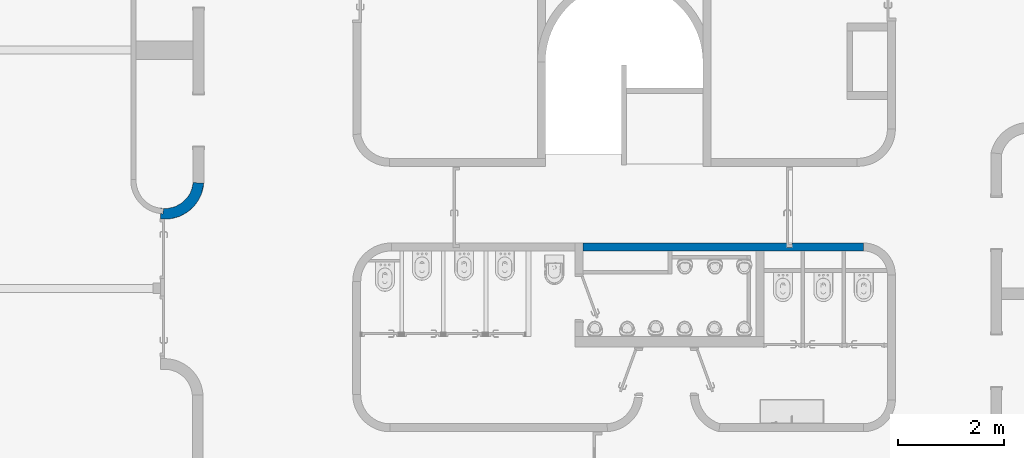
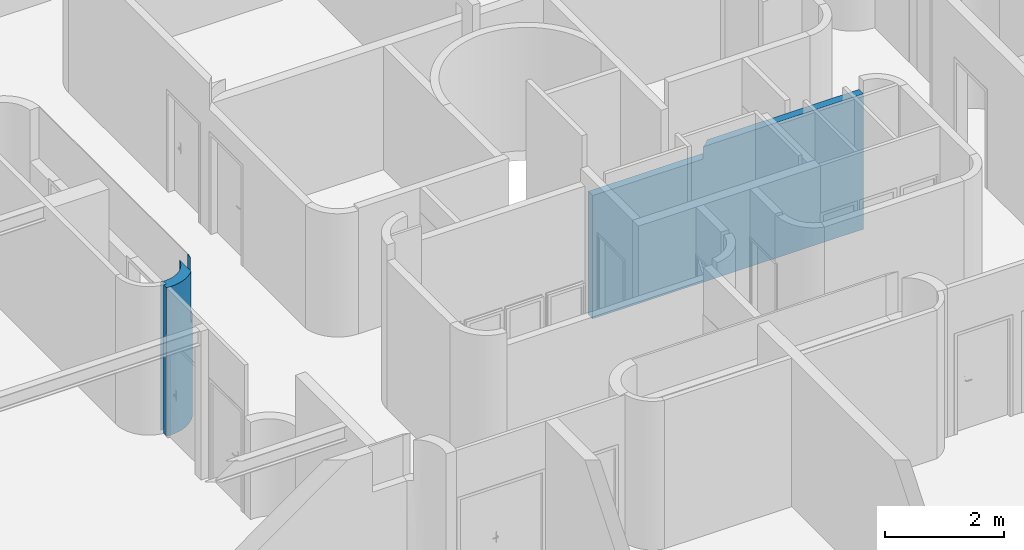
# One storey, part 7 of 7: 2 walls.
"""IFC2X3 building model written with IfcOpenShell, lengths in metres."""

from ifc_helpers import new_model, entity, si_unit, converted_unit, derived_unit, direction, frame, origin, place, context, subcontext, project, spatial, faceted_brep, material, layer, layer_set, type_object, element, save


model = new_model("IFC2X3")

# Units and contexts
model_context = context("Model", 3, precision=1e-05, world=origin(), true_north=direction((6.12303176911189e-17, 1.0)))
body_context = subcontext(model_context, "Body", "Model", "MODEL_VIEW")
ifc_project = project(units=[si_unit("LENGTHUNIT", "METRE"), si_unit("AREAUNIT", "SQUARE_METRE"), si_unit("VOLUMEUNIT", "CUBIC_METRE"), converted_unit("PLANEANGLEUNIT", "DEGREE", entity("IfcRatioMeasure", 0.0174532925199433), si_unit("PLANEANGLEUNIT", "RADIAN"), dimensions=[0, 0, 0, 0, 0, 0, 0]), si_unit("MASSUNIT", "GRAM", prefix="KILO"), derived_unit("MASSDENSITYUNIT", [(si_unit("MASSUNIT", "GRAM", prefix="KILO"), 1), (si_unit("LENGTHUNIT", "METRE"), -3)]), derived_unit("MOMENTOFINERTIAUNIT", [(si_unit("LENGTHUNIT", "METRE"), 4)]), si_unit("TIMEUNIT", "SECOND"), si_unit("FREQUENCYUNIT", "HERTZ"), si_unit("THERMODYNAMICTEMPERATUREUNIT", "DEGREE_CELSIUS"), derived_unit("THERMALTRANSMITTANCEUNIT", [(si_unit("MASSUNIT", "GRAM", prefix="KILO"), 1), (si_unit("THERMODYNAMICTEMPERATUREUNIT", "KELVIN"), -1), (si_unit("TIMEUNIT", "SECOND"), -3)]), derived_unit("VOLUMETRICFLOWRATEUNIT", [(si_unit("LENGTHUNIT", "METRE"), 3), (si_unit("TIMEUNIT", "SECOND"), -1)]), si_unit("ELECTRICCURRENTUNIT", "AMPERE"), si_unit("ELECTRICVOLTAGEUNIT", "VOLT"), si_unit("POWERUNIT", "WATT"), si_unit("FORCEUNIT", "NEWTON", prefix="KILO"), si_unit("ILLUMINANCEUNIT", "LUX"), si_unit("LUMINOUSFLUXUNIT", "LUMEN"), si_unit("LUMINOUSINTENSITYUNIT", "CANDELA"), derived_unit("USERDEFINED", [(si_unit("MASSUNIT", "GRAM", prefix="KILO"), -1), (si_unit("LENGTHUNIT", "METRE"), -2), (si_unit("TIMEUNIT", "SECOND"), 3), (si_unit("LUMINOUSFLUXUNIT", "LUMEN"), 1)]), derived_unit("LINEARVELOCITYUNIT", [(si_unit("LENGTHUNIT", "METRE"), 1), (si_unit("TIMEUNIT", "SECOND"), -1)]), si_unit("PRESSUREUNIT", "PASCAL"), derived_unit("USERDEFINED", [(si_unit("LENGTHUNIT", "METRE"), -2), (si_unit("MASSUNIT", "GRAM", prefix="KILO"), 1), (si_unit("TIMEUNIT", "SECOND"), -2)]), derived_unit("LINEARFORCEUNIT", [(si_unit("MASSUNIT", "GRAM", prefix="KILO"), 1), (si_unit("LENGTHUNIT", "METRE"), 1), (si_unit("TIMEUNIT", "SECOND"), -2), (si_unit("LENGTHUNIT", "METRE"), -1)]), derived_unit("PLANARFORCEUNIT", [(si_unit("MASSUNIT", "GRAM", prefix="KILO"), 1), (si_unit("LENGTHUNIT", "METRE"), 1), (si_unit("TIMEUNIT", "SECOND"), -2), (si_unit("LENGTHUNIT", "METRE"), -2)])], contexts=[model_context])

# Site, building, storey
site_placement = place(None, origin())
site = spatial("IfcSite", under=ifc_project, at=site_placement, Name="Default", CompositionType="ELEMENT")
building_placement = place(site_placement, origin())
building = spatial("IfcBuilding", under=site, at=building_placement, CompositionType="ELEMENT")
storey_placement = place(building_placement, frame((0.0, 0.0, 7.36730827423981)))
storey = spatial("IfcBuildingStorey", under=building, at=storey_placement, Name="Niveau 2", CompositionType="ELEMENT", Elevation=7.36730827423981)

# Walls
ifc_material_1 = material(Name="Maçonnerie - Voile BA")
ifc_layer_1 = layer(ifc_material_1, 0.2)
ifc_layer_set_1 = layer_set([ifc_layer_1], Name="Mur de base:Ext. Voile BA 200")
wall_type_1 = type_object("IfcWallType", Name="Mur de base:Ext. Voile BA 200", PredefinedType="STANDARD", material=ifc_layer_set_1)
wall_1_placement = place(storey_placement, frame((-19.572419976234, -8.21540196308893, 0.0)))
element("IfcWall", 1, at=wall_1_placement, inside=storey, type_object=wall_type_1, Name="Mur de base:Ext. Voile BA 200", ObjectType="Mur de base:Ext. Voile BA 200", context=body_context, shape_type="Brep", body=[
    faceted_brep([(0.0159046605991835, -0.103136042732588, 0.0), (0.0159046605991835, -0.103136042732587, 1.88681319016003), (0.0159046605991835, -0.103136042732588, 3.05600000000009), (0.0159046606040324, -0.0041967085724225, 3.05600000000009), (0.0159046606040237, -0.0041967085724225, 2.8368972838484), (0.0159046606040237, -0.00419670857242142, 2.6177945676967), (0.0159046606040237, -0.00419670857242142, 2.398691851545), (0.0159046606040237, -0.00419670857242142, 2.1795891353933), (0.0159046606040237, -0.00419670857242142, 1.9604864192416), (0.0159046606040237, -0.0041967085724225, 1.7413837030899), (0.0159046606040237, -0.0041967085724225, 1.5222809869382), (0.0159046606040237, -0.0041967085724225, 1.3031782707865), (0.0159046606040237, -0.0041967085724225, 1.14028098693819), (0.0159046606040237, -0.00419670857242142, 0.977383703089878), (0.0159046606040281, -0.0041967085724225, 0.814486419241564), (0.0159046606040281, -0.00419670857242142, 0.651589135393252), (0.0159046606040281, -0.0041967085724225, 0.438205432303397), (0.0159046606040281, -0.00419670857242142, 0.219102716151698), (0.0159046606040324, -0.0041967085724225, 0.0), (0.0159046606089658, 0.0965302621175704, 0.0), (0.0159046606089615, 0.0965302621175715, 0.200962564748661), (0.0159046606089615, 0.0965302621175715, 0.401925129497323), (0.0159046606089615, 0.0965302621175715, 0.582963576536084), (0.0159046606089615, 0.0965302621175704, 0.764000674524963), (0.0159046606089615, 0.0965302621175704, 0.955000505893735), (0.0159046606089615, 0.0965302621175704, 1.14600033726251), (0.0159046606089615, 0.0965302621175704, 1.33700016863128), (0.0159046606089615, 0.0965302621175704, 1.52800000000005), (0.0159046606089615, 0.0965302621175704, 1.70903709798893), (0.0159046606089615, 0.0965302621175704, 1.89007419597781), (0.0159046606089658, 0.0965302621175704, 2.07111129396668), (0.0159046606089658, 0.0965302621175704, 2.25214839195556), (0.0159046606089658, 0.0965302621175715, 2.45311095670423), (0.0159046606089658, 0.0965302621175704, 2.65407352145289), (0.0159046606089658, 0.0965302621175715, 2.85503608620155), (0.0159046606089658, 0.0965302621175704, 3.05600000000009), (0.0159046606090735, 0.0987271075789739, 3.05600000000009), (0.0159046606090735, 0.0987271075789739, 1.44830051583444), (0.0159046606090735, 0.0987271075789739, 0.0), (0.81343080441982, 0.571761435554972, 3.05600000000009), (0.813430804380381, 0.466414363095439, 3.05600000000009), (0.822826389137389, 0.51849078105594, 3.05600000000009), (0.828430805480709, 0.571197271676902, 3.05600000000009), (0.0645306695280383, -0.00768008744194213, 3.05600000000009), (0.0401839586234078, -0.0064089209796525, 3.05600000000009), (0.097436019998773, -0.108013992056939, 3.05600000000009), (0.17899011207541, -0.103754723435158, 3.05600000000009), (0.259557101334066, -0.0904131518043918, 3.05600000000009), (0.338127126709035, -0.0681571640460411, 3.05600000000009), (0.413718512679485, -0.0372655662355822, 3.05600000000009), (0.485386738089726, 0.00187539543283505, 3.05600000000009), (0.552236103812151, 0.048776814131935, 3.05600000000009), (0.613430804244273, 0.102853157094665, 3.05600000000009), (0.613430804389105, 0.489717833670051, 3.05600000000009), (0.588351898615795, 0.41556590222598, 3.05600000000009), (0.552624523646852, 0.345916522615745, 3.05600000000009), (0.507027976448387, 0.282289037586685, 3.05600000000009), (0.452556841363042, 0.226071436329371, 3.05600000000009), (0.390399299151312, 0.178490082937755, 3.05600000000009), (0.321911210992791, 0.140582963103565, 3.05600000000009), (0.248586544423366, 0.113177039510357, 3.05600000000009), (0.172024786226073, 0.0968702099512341, 3.05600000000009), (0.0938961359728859, 0.0920182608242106, 3.05600000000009), (0.041805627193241, 0.0937601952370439, 3.05600000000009), (0.0678114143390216, 0.0922660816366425, 3.05600000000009), (0.064530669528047, -0.00768008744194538, 0.0), (0.0678114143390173, 0.0922660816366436, 0.0), (0.041805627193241, 0.0937601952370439, 0.0), (0.0949876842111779, 0.0920064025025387, 0.0), (0.174187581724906, 0.0971705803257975, 0.0), (0.251728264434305, 0.114103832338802, 0.0), (0.32587085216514, 0.142426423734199, 0.0), (0.394952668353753, 0.18150320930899, 0.0), (0.457424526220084, 0.230457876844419, 0.0), (0.511885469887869, 0.28819259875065, 0.0), (0.557114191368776, 0.353412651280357, 0.0), (0.592096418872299, 0.424655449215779, 0.0), (0.616047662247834, 0.500323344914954, 0.0), (0.628430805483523, 0.578719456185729, 0.0), (0.828430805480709, 0.571197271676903, 0.0), (0.817524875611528, 0.486540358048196, 0.0), (0.796813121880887, 0.40373946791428, 0.0), (0.766578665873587, 0.323922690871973, 0.0), (0.727235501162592, 0.248181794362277, 0.0), (0.679321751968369, 0.177551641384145, 0.0), (0.623492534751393, 0.112997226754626, 0.0), (0.560511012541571, 0.0554005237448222, 0.0), (0.491237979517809, 0.00554846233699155, 0.0), (0.416620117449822, -0.0358777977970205, 0.0), (0.337677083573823, -0.0683121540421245, 0.0), (0.255487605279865, -0.0913112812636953, 0.0), (0.171174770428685, -0.104560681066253, 0.0), (0.0859046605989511, -0.107879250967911, 0.0), (0.0853842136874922, -0.107868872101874, 0.0), (0.0848374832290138, -0.107857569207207, 0.0), (0.0503596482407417, -0.106315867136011, 0.0), (0.0401839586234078, -0.00640892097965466, 0.0), (0.133050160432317, 0.0929998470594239, 2.17059498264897), (0.285755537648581, 0.125524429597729, 1.53120476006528), (0.605490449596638, 0.462040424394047, 0.985095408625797), (0.613430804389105, 0.489717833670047, 2.0), (0.622828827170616, 0.533898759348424, 2.0), (0.581550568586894, 0.400167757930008, 1.67512887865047), (0.531002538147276, 0.313259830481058, 1.53504446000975), (0.628430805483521, 0.578719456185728, 1.19614926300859), (0.628430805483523, 0.578719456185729, 2.0), (0.564702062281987, 0.366760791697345, 0.865255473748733), (0.427106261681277, 0.204809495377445, 0.810098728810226), (0.153529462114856, 0.0946707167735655, 1.23649035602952), (0.422357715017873, 0.201131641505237, 1.69274235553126), (0.198961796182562, -0.101307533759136, 1.64823153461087), (0.377623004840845, -0.0532496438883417, 1.5254990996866), (0.526603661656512, 0.029461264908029, 1.16088890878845), (0.613430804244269, 0.102853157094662, 2.0), (0.652351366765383, 0.14445783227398, 0.984308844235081), (0.669733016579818, 0.165328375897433, 2.0), (0.727241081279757, 0.248191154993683, 1.03298988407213), (0.759012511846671, 0.307552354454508, 2.0), (0.782863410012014, 0.363388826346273, 0.981565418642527), (0.790804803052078, 0.38541339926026, 2.0), (0.828430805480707, 0.5711972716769, 1.52800000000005), (0.813430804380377, 0.466414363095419, 2.0), (0.718475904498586, 0.233864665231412, 2.0), (0.0418056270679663, 0.0937601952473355, 2.53333811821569), (0.0678114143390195, 0.0922660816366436, 2.45311221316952), (0.0678114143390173, 0.0922660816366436, 2.6540752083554), (0.0678114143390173, 0.0922660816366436, 2.85503700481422), (0.0418056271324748, 0.0937601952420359, 2.75455597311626), (0.0678114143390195, 0.0922660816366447, 2.05118622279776), (0.0678114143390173, 0.0922660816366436, 2.25214921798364), (0.041805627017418, 0.0937601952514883, 2.15166791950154), (0.0678114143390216, 0.0922660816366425, 0.200961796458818), (0.0678114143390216, 0.0922660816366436, 0.362074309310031), (0.0418056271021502, 0.0937601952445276, 0.281518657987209), (0.0407428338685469, 0.0938485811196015, 0.492444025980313), (0.0407428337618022, 0.0938485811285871, 1.79955597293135), (0.0441129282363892, 0.0935757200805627, 2.34250301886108), (0.0428685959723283, 0.0936739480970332, 0.814667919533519), (0.0678114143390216, 0.0922660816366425, 0.724148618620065), (0.043272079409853, 0.0936417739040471, 1.35777986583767), (0.0678114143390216, 0.0922660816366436, 0.543112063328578), (0.0678114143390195, 0.0922660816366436, 1.64926143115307), (0.0678114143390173, 0.0922660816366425, 1.85022322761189), (0.0411067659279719, 0.093818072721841, 1.60388543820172), (0.0678114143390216, 0.0922660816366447, 1.44829843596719), (0.0376616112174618, 0.0941170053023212, 1.97616798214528), (0.0678114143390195, 0.0922660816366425, 0.905186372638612), (0.0403239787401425, 0.0938840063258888, 1.05049999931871), (0.0678114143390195, 0.0922660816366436, 1.26726068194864), (0.0678114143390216, 0.0922660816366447, 1.08622412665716), (0.813430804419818, 0.571761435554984, 2.0), (0.0645306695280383, -0.00768008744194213, 0.219102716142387), (0.0645306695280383, -0.00768008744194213, 0.382000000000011), (0.0645306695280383, -0.00768008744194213, 0.573000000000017), (0.0645306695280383, -0.00768008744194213, 0.764000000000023), (0.0645306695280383, -0.00768008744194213, 0.955000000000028), (0.0645306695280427, -0.00768008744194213, 1.14600000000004), (0.0645306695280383, -0.00768008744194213, 1.33700000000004), (0.0645306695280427, -0.00768008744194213, 1.52800000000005), (0.0645306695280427, -0.00768008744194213, 1.69089728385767), (0.0645306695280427, -0.00768008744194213, 1.85379456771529), (0.0645306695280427, -0.00768008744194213, 2.01669185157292), (0.0645306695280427, -0.00768008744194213, 2.17958913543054), (0.0645306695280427, -0.00768008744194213, 2.39869185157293), (0.0645306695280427, -0.00768008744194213, 2.61779456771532), (0.0645306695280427, -0.00768008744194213, 2.83689728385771), (0.0401839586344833, -0.00640892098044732, 0.300551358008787), (0.0401839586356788, -0.00640892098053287, 2.50824320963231), (0.0401839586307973, -0.0064089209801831, 2.72734592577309), (0.0401839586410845, -0.00640892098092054, 2.0970035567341), (0.0401839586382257, -0.00640892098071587, 2.2891404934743), (0.0426460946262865, -0.00658045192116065, 2.89167296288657), (0.0391731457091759, -0.00633569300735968, 1.81984695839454), (0.0402806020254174, -0.00641583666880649, 0.87181284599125), (0.0419687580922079, -0.00653422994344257, 0.668499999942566), (0.0418439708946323, -0.00652563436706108, 1.24851062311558), (0.0403980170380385, -0.00642421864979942, 1.43249999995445), (0.0403115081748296, -0.0064180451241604, 1.63617133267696), (0.0418748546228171, -0.0065277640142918, 0.484328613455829), (0.0399781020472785, -0.00639414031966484, 1.06471364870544)], [[[0, 1, 2, 3, 4, 5, 6, 7, 8, 9, 10, 11, 12, 13, 14, 15, 16, 17, 18]], [[19, 20, 21, 22, 23, 24, 25, 26, 27, 28, 29, 30, 31, 32, 33, 34, 35, 36, 37, 38]], [[39, 40, 41, 42]], [[43, 44, 3, 2, 45, 46, 47, 48, 49, 50, 51, 52, 53, 54, 55, 56, 57, 58, 59, 60, 61, 62, 36, 35, 63, 64]], [[65, 66, 67, 19, 38, 68, 69, 70, 71, 72, 73, 74, 75, 76, 77, 78, 79, 80, 81, 82, 83, 84, 85, 86, 87, 88, 89, 90, 91, 92, 93, 94, 95, 0, 18, 96]], [[61, 97, 62]], [[70, 98, 71]], [[99, 100, 101]], [[102, 103, 55]], [[100, 54, 53]], [[56, 55, 103]], [[97, 61, 60]], [[99, 77, 76]], [[78, 77, 104]], [[99, 101, 104]], [[101, 105, 104]], [[99, 106, 102]], [[107, 71, 98]], [[55, 54, 102]], [[76, 106, 99]], [[68, 108, 69]], [[107, 103, 74]], [[58, 109, 59]], [[109, 58, 57]], [[75, 74, 106]], [[109, 98, 59]], [[108, 97, 98]], [[36, 62, 97]], [[59, 98, 60]], [[109, 57, 56]], [[97, 60, 98]], [[76, 75, 106]], [[37, 97, 108]], [[37, 108, 68]], [[68, 38, 37]], [[56, 103, 109]], [[109, 103, 107]], [[100, 99, 102]], [[107, 73, 72]], [[109, 107, 98]], [[72, 71, 107]], [[103, 102, 106]], [[108, 98, 70]], [[97, 37, 36]], [[100, 102, 54]], [[108, 70, 69]], [[74, 73, 107]], [[103, 106, 74]], [[77, 99, 104]], [[92, 91, 110]], [[92, 1, 93]], [[111, 110, 90]], [[89, 88, 111]], [[46, 45, 110]], [[90, 89, 111]], [[111, 47, 110]], [[86, 112, 87]], [[88, 87, 112]], [[113, 114, 115]], [[1, 0, 95]], [[1, 95, 94]], [[84, 83, 116]], [[117, 118, 119]], [[45, 1, 110]], [[46, 110, 47]], [[47, 111, 48]], [[116, 114, 84]], [[90, 110, 91]], [[49, 111, 50]], [[92, 110, 1]], [[50, 113, 51]], [[118, 81, 80]], [[112, 50, 111]], [[84, 114, 85]], [[86, 114, 112]], [[116, 83, 82]], [[79, 120, 80]], [[118, 82, 81]], [[80, 120, 118]], [[118, 116, 82]], [[120, 42, 121]], [[119, 118, 121]], [[48, 111, 49]], [[114, 116, 115]], [[52, 51, 113]], [[45, 2, 1]], [[88, 112, 111]], [[112, 114, 113]], [[93, 1, 94]], [[117, 122, 116]], [[120, 121, 118]], [[121, 41, 40]], [[121, 42, 41]], [[50, 112, 113]], [[122, 115, 116]], [[85, 114, 86]], [[117, 116, 118]], [[123, 124, 125, 126, 64, 63, 127]], [[128, 129, 130]], [[67, 66, 131, 132, 133]], [[34, 33, 32, 123, 127, 63, 35]], [[20, 19, 67, 133, 21]], [[30, 130, 31]], [[134, 22, 21]], [[28, 135, 29]], [[136, 124, 123]], [[137, 22, 134]], [[138, 137, 134]], [[26, 25, 139, 27]], [[132, 140, 138, 134]], [[135, 141, 142]], [[143, 144, 141]], [[145, 128, 130]], [[133, 132, 134]], [[137, 146, 147]], [[133, 134, 21]], [[137, 138, 146]], [[148, 139, 147]], [[25, 24, 147]], [[137, 24, 23, 22]], [[146, 149, 148, 147]], [[137, 147, 24]], [[139, 25, 147]], [[144, 139, 148]], [[143, 141, 135]], [[31, 130, 136]], [[139, 144, 143]], [[28, 27, 143]], [[142, 128, 145]], [[136, 130, 129]], [[130, 30, 145]], [[135, 145, 29]], [[124, 136, 129]], [[136, 32, 31]], [[136, 123, 32]], [[145, 135, 142]], [[28, 143, 135]], [[30, 29, 145]], [[139, 143, 27]], [[113, 100, 53, 52]], [[117, 119, 121, 150, 105, 101, 100, 113, 115, 122]], [[64, 126, 125, 124, 129, 128, 142, 141, 144, 148, 149, 146, 138, 140, 132, 131, 66, 65, 151, 152, 153, 154, 155, 156, 157, 158, 159, 160, 161, 162, 163, 164, 165, 43]], [[96, 166, 152, 151, 65]], [[167, 168, 165, 164, 163, 162, 161, 169, 170]], [[168, 171, 165]], [[169, 172, 8]], [[14, 13, 173]], [[174, 154, 153]], [[170, 169, 8, 7, 6, 5, 4, 168, 167]], [[96, 18, 17, 16, 166]], [[175, 176, 157]], [[174, 173, 154]], [[176, 10, 177]], [[14, 174, 15]], [[158, 176, 177]], [[153, 178, 174]], [[178, 166, 16]], [[171, 4, 3]], [[171, 44, 43]], [[178, 153, 152]], [[4, 171, 168]], [[173, 13, 179]], [[16, 15, 178]], [[156, 155, 179]], [[173, 174, 14]], [[173, 179, 155]], [[15, 174, 178]], [[166, 178, 152]], [[10, 9, 177]], [[157, 176, 158]], [[10, 176, 11]], [[160, 159, 172, 161]], [[177, 172, 159]], [[175, 157, 156]], [[179, 12, 175]], [[155, 154, 173]], [[176, 175, 11]], [[179, 175, 156]], [[172, 177, 9]], [[169, 161, 172]], [[11, 175, 12]], [[172, 9, 8]], [[179, 13, 12]], [[159, 158, 177]], [[165, 171, 43]], [[3, 44, 171]], [[150, 121, 40, 39]], [[39, 42, 120, 79, 78, 104, 105, 150]]]),
])
ifc_material_2 = material(Name="Mur par défaut")
ifc_layer_2 = layer(ifc_material_2, 0.15)
ifc_layer_set_2 = layer_set([ifc_layer_2], Name="Mur de base:@_Générique - Int. 150 mm")
wall_type_2 = type_object("IfcWallType", Name="Mur de base:@_Générique - Int. 150 mm", PredefinedType="STANDARD", material=ifc_layer_set_2)
wall_2_placement = place(storey_placement, frame((-6.34398916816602, -8.84625785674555, 0.0), z_axis=(0.0, 0.0, 1.0), x_axis=(-1.0, 0.0, 0.0)))
element("IfcWall", 2, at=wall_2_placement, inside=storey, type_object=wall_type_2, Name="Mur de base:@_Générique - Int. 150 mm", ObjectType="Mur de base:@_Générique - Int. 150 mm", context=body_context, shape_type="Brep", body=[
    faceted_brep([(0.0, -0.0749999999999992, 0.0), (1.34000000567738, -0.0749999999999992, 0.0), (1.34000000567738, -0.0749999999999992, 2.075), (1.44000000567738, -0.0749999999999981, 2.075), (1.44000000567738, -0.0749999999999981, 0.0), (5.26830962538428, -0.0749999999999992, 0.0), (5.26830962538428, -0.0749999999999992, 2.5360000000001), (2.9563837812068, -0.0749999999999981, 2.5360000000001), (2.95638378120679, -0.0749999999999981, 2.7860000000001), (0.0, -0.0749999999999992, 2.7860000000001), (5.26830962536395, 0.0750000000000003, 0.0), (2.02330962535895, 0.0750000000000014, 0.0), (1.87330962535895, 0.0750000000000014, 0.0), (0.0, 0.0750000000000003, 0.0), (0.0, 0.0750000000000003, 2.7860000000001), (3.12317014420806, 0.0750000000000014, 2.7860000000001), (3.12317014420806, 0.0750000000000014, 2.5360000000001), (5.26830962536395, 0.0750000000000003, 2.5360000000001), (1.44000000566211, 0.00535728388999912, 0.0), (1.34000000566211, 0.00535728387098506, 0.0), (3.00587073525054, -0.0184738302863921, 2.7860000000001), (3.06173062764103, 0.031763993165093, 2.7860000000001), (1.44000000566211, 0.00535728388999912, 2.075), (1.34000000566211, 0.00535728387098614, 2.075), (3.06173031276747, 0.0317637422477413, 2.5360000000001), (3.00587231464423, -0.018472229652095, 2.5360000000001)], [[[0, 1, 2, 3, 4, 5, 6, 7, 8, 9]], [[10, 11, 12, 13, 14, 15, 16, 17]], [[1, 0, 13, 12, 11, 10, 5, 4, 18, 19]], [[14, 9, 8, 20, 21, 15]], [[0, 9, 14, 13]], [[5, 10, 17, 6]], [[3, 22, 18, 4]], [[19, 23, 2, 1]], [[19, 18, 22, 23]], [[2, 23, 22, 3]], [[7, 6, 17, 16, 24, 25]], [[7, 20, 8]], [[20, 7, 25]], [[25, 21, 20]], [[16, 15, 21]], [[21, 24, 16]], [[25, 24, 21]]]),
])

save(model, "model.ifc")
